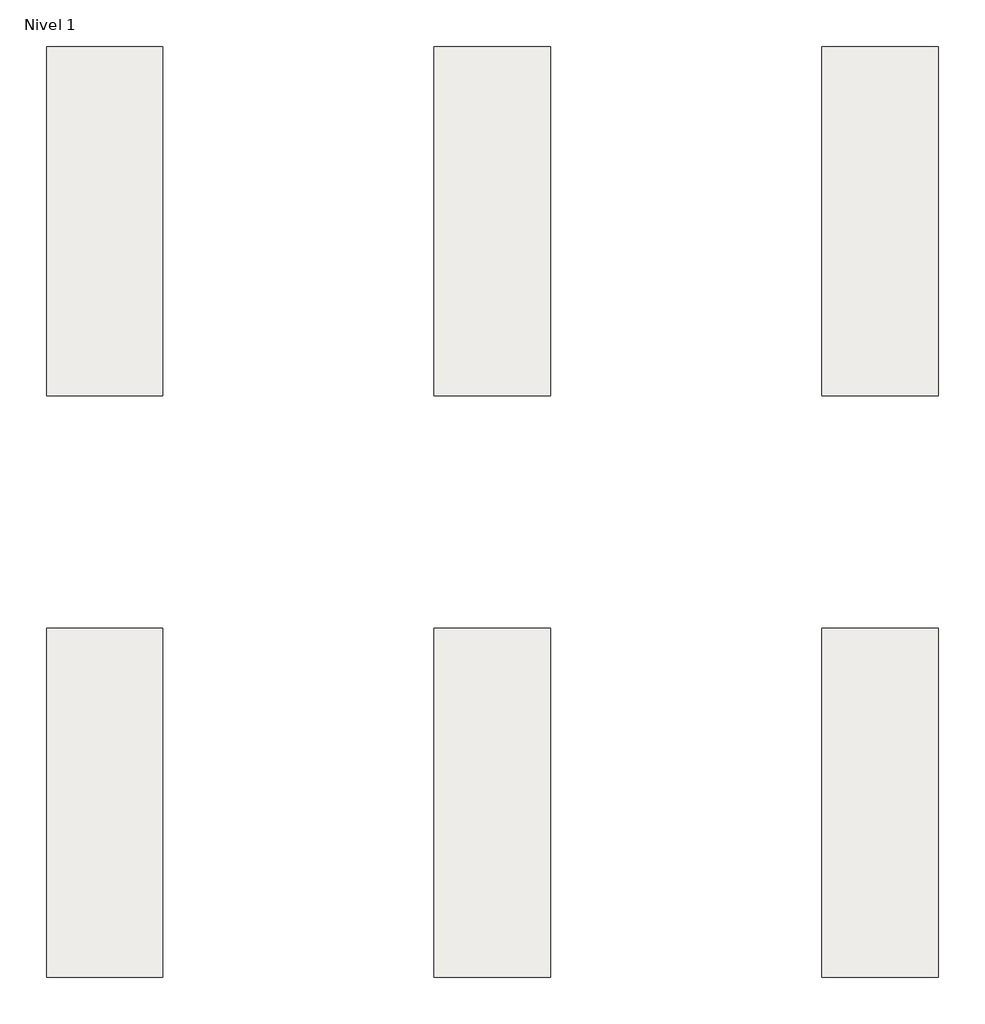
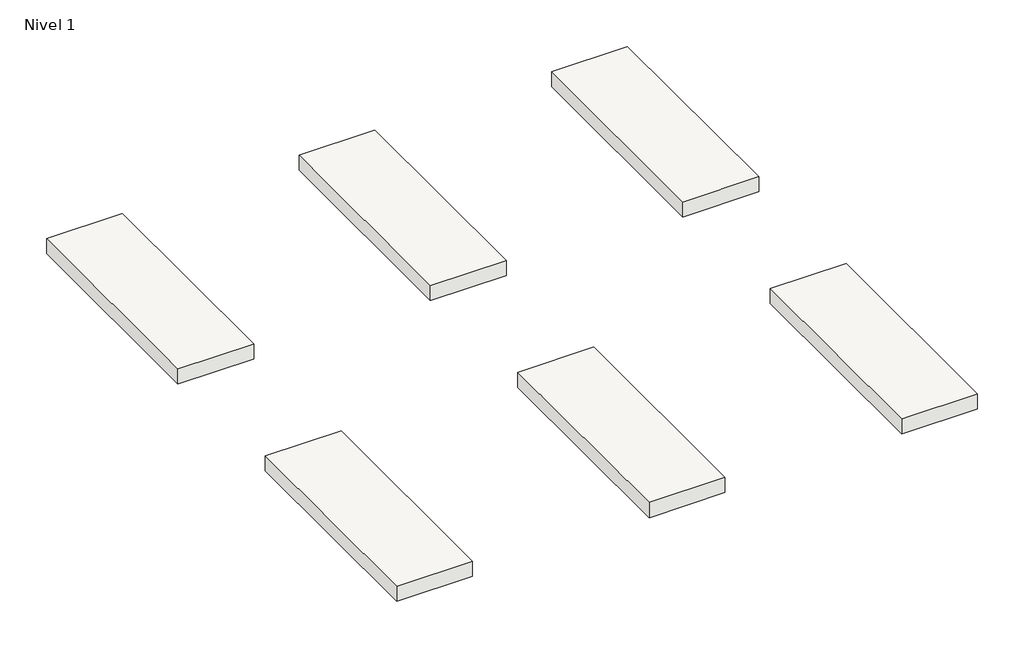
# One storey: 6 slabs.
"""IFC4 building model written with IfcOpenShell, lengths in millimetres."""

from ifc_helpers import new_model, si_unit, frame, origin, place, context, project, spatial, polyline, outline, extrude, element, save

model = new_model("IFC4")

# Units and contexts
model_context = context("Model", 3, world=origin())
ifc_project = project(units=[si_unit("LENGTHUNIT", "METRE", prefix="MILLI")], contexts=[model_context])

# Site, building, storey
site = spatial("IfcSite", under=ifc_project)
building = spatial("IfcBuilding", under=site)
storey = spatial("IfcBuildingStorey", under=building, Name="Nivel 1", Elevation=0.0)

# Slabs
placement = place(None, origin())
element("IfcSlab", 1, ObjectType="Glaciar 30X90", at=placement, inside=storey, context=model_context, shape_type="SweptSolid", body=[
    extrude(outline(polyline([(0.0, 900.0), (300.0, 900.0), (300.0, 0.0), (0.0, 0.0), (0.0, 900.0)])), frame((0.0, 0.0, -63.0), z_axis=(0.0, 0.0, 1.0), x_axis=(1.0, 0.0, 0.0)), (0.0, 0.0, 1.0), 63.0),
])
element("IfcSlab", 2, ObjectType="Locarno Beige 30X90", at=placement, inside=storey, context=model_context, shape_type="SweptSolid", body=[
    extrude(outline(polyline([(1000.0, 900.0), (1300.0, 900.0), (1300.0, 0.0), (1000.0, 0.0), (1000.0, 900.0)])), frame((0.0, 0.0, -63.0), z_axis=(0.0, 0.0, 1.0), x_axis=(1.0, 0.0, 0.0)), (0.0, 0.0, 1.0), 63.0),
])
element("IfcSlab", 3, ObjectType="Locarno Blanco 30X90", at=placement, inside=storey, context=model_context, shape_type="SweptSolid", body=[
    extrude(outline(polyline([(2000.0, 900.0), (2300.0, 900.0), (2300.0, 0.0), (2000.0, 0.0), (2000.0, 900.0)])), frame((0.0, 0.0, -63.0), z_axis=(0.0, 0.0, 1.0), x_axis=(1.0, 0.0, 0.0)), (0.0, 0.0, 1.0), 63.0),
])
element("IfcSlab", 4, ObjectType="Montblanc Beige 30X90", at=placement, inside=storey, context=model_context, shape_type="SweptSolid", body=[
    extrude(outline(polyline([(0.0, -600.0), (300.0, -600.0), (300.0, -1500.0), (0.0, -1500.0), (0.0, -600.0)])), frame((0.0, 0.0, -63.0), z_axis=(0.0, 0.0, 1.0), x_axis=(1.0, 0.0, 0.0)), (0.0, 0.0, 1.0), 63.0),
])
element("IfcSlab", 5, ObjectType="Montblanc Blanco 30X90", at=placement, inside=storey, context=model_context, shape_type="SweptSolid", body=[
    extrude(outline(polyline([(1000.0, -600.0), (1300.0, -600.0), (1300.0, -1500.0), (1000.0, -1500.0), (1000.0, -600.0)])), frame((0.0, 0.0, -63.0), z_axis=(0.0, 0.0, 1.0), x_axis=(1.0, 0.0, 0.0)), (0.0, 0.0, 1.0), 63.0),
])
element("IfcSlab", 6, ObjectType="Polar 30X90", at=placement, inside=storey, context=model_context, shape_type="SweptSolid", body=[
    extrude(outline(polyline([(2000.0, -600.0), (2300.0, -600.0), (2300.0, -1500.0), (2000.0, -1500.0), (2000.0, -600.0)])), frame((0.0, 0.0, -63.0), z_axis=(0.0, 0.0, 1.0), x_axis=(1.0, 0.0, 0.0)), (0.0, 0.0, 1.0), 63.0),
])

save(model, "model.ifc")
